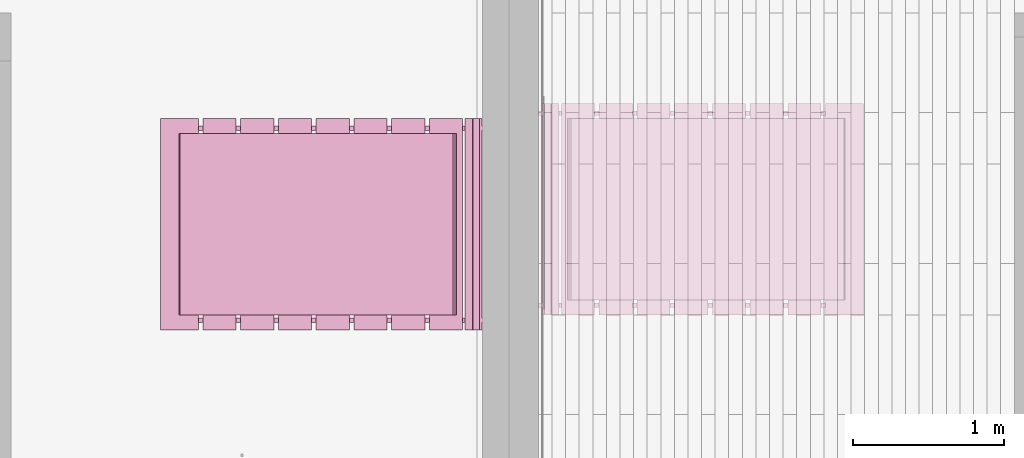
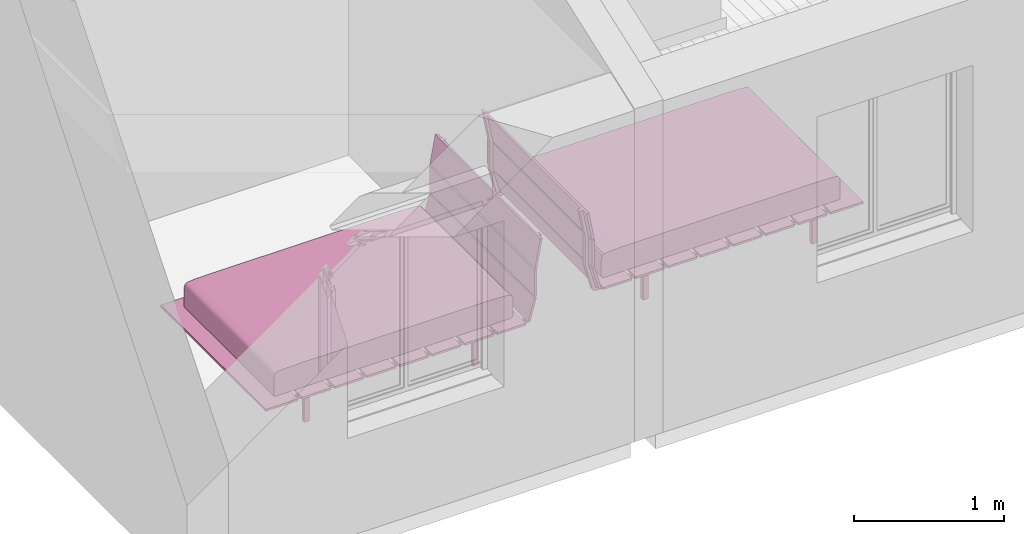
# One storey, part 55 of 61: 2 furnishings.
"""IFC2X3 building model written with IfcOpenShell, lengths in metres."""

from ifc_helpers import new_model, entity, si_unit, converted_unit, derived_unit, direction, frame, frame_2d, origin, origin_2d_with_axis, place, context, subcontext, project, spatial, polyline, circle_curve, parameter, trimmed, segment, composite_curve, rectangle, outline, extrude, source, transform, mapped, material, material_list, type_object, type_shapes, element, save


model = new_model("IFC2X3")

# Units and contexts
model_context = context("Model", 3, precision=1e-05, world=origin(), true_north=direction((6.12303176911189e-17, 1.0)))
body_context = subcontext(model_context, "Body", "Model", "MODEL_VIEW")
ifc_project = project(units=[si_unit("LENGTHUNIT", "METRE"), si_unit("AREAUNIT", "SQUARE_METRE"), si_unit("VOLUMEUNIT", "CUBIC_METRE"), converted_unit("PLANEANGLEUNIT", "DEGREE", entity("IfcRatioMeasure", 0.0174532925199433), si_unit("PLANEANGLEUNIT", "RADIAN"), dimensions=[0, 0, 0, 0, 0, 0, 0]), si_unit("MASSUNIT", "GRAM", prefix="KILO"), derived_unit("MASSDENSITYUNIT", [(si_unit("MASSUNIT", "GRAM", prefix="KILO"), 1), (si_unit("LENGTHUNIT", "METRE"), -3)]), si_unit("TIMEUNIT", "SECOND"), si_unit("FREQUENCYUNIT", "HERTZ"), si_unit("THERMODYNAMICTEMPERATUREUNIT", "DEGREE_CELSIUS"), derived_unit("THERMALTRANSMITTANCEUNIT", [(si_unit("MASSUNIT", "GRAM", prefix="KILO"), 1), (si_unit("THERMODYNAMICTEMPERATUREUNIT", "KELVIN"), -1), (si_unit("TIMEUNIT", "SECOND"), -3)]), derived_unit("VOLUMETRICFLOWRATEUNIT", [(si_unit("LENGTHUNIT", "METRE"), 3), (si_unit("TIMEUNIT", "SECOND"), -1)]), si_unit("ELECTRICCURRENTUNIT", "AMPERE"), si_unit("ELECTRICVOLTAGEUNIT", "VOLT"), si_unit("POWERUNIT", "WATT"), si_unit("FORCEUNIT", "NEWTON", prefix="KILO"), si_unit("ILLUMINANCEUNIT", "LUX"), si_unit("LUMINOUSFLUXUNIT", "LUMEN"), si_unit("LUMINOUSINTENSITYUNIT", "CANDELA"), derived_unit("USERDEFINED", [(si_unit("MASSUNIT", "GRAM", prefix="KILO"), -1), (si_unit("LENGTHUNIT", "METRE"), -2), (si_unit("TIMEUNIT", "SECOND"), 3), (si_unit("LUMINOUSFLUXUNIT", "LUMEN"), 1)]), derived_unit("LINEARVELOCITYUNIT", [(si_unit("LENGTHUNIT", "METRE"), 1), (si_unit("TIMEUNIT", "SECOND"), -1)]), si_unit("PRESSUREUNIT", "PASCAL"), derived_unit("USERDEFINED", [(si_unit("LENGTHUNIT", "METRE"), -2), (si_unit("MASSUNIT", "GRAM", prefix="KILO"), 1), (si_unit("TIMEUNIT", "SECOND"), -2)])], contexts=[model_context])

# Site, building, storey, space
site_placement = place(None, origin())
site = spatial("IfcSite", under=ifc_project, at=site_placement, Name="Surface", CompositionType="ELEMENT")
building_placement = place(site_placement, origin())
building = spatial("IfcBuilding", under=site, at=building_placement, CompositionType="ELEMENT")
storey_placement = place(building_placement, frame((0.0, 0.0, 2.82)))
storey = spatial("IfcBuildingStorey", under=building, at=storey_placement, Name="ETAGE", CompositionType="ELEMENT", Elevation=2.82)
space_placement = place(storey_placement, origin())
space = spatial("IfcSpace", under=storey, at=space_placement, Name="477", CompositionType="ELEMENT", InteriorOrExteriorSpace="INTERNAL")

# Furnishings
ifc_material_1 = material(Name="Textile - Bleu pâle")
ifc_material_2 = material(Name="Bois - Teck")
ifc_material_3 = material(Name="Plastique - Noir")
ifc_material_list_1 = material_list([ifc_material_1, ifc_material_2, ifc_material_3])
ifc_material_list_2 = material_list([ifc_material_1, ifc_material_2, ifc_material_3])
furniture_type_1 = type_object("IfcFurnitureType", Name="1900 mm x 2000 mm", material=ifc_material_list_2)
shared_shape_1 = source(origin(), body_context, "Body", "SweptSolid", [
    extrude(outline(composite_curve([segment(polyline([(-0.755361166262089, -0.0846796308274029), (0.695178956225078, -0.0846796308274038)]), True, "CONTINUOUS"), segment(polyline([(0.695178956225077, -0.0846796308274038), (0.816394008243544, -0.078623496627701)]), True, "CONTINUOUS"), segment(polyline([(0.816394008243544, -0.078623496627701), (0.842657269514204, -0.0725673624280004)]), True, "CONTINUOUS"), segment(polyline([(0.842657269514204, -0.0725673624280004), (0.856799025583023, -0.0624738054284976)]), True, "CONTINUOUS"), segment(polyline([(0.856799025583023, -0.0624738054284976), (0.862859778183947, -0.0443054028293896)]), True, "CONTINUOUS"), segment(polyline([(0.862859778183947, -0.0443054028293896), (0.866900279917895, -0.0120060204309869)]), True, "CONTINUOUS"), segment(polyline([(0.866900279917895, -0.0120060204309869), (0.866900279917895, 0.0747985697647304)]), True, "CONTINUOUS"), segment(polyline([(0.866900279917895, 0.0747985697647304), (0.862859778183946, 0.105079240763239)]), True, "CONTINUOUS"), segment(polyline([(0.862859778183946, 0.105079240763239), (0.856799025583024, 0.113154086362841)]), True, "CONTINUOUS"), segment(polyline([(0.856799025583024, 0.113154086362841), (0.836596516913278, 0.117191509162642)]), True, "CONTINUOUS"), segment(polyline([(0.836596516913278, 0.117191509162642), (-0.953345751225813, 0.117191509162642)]), True, "CONTINUOUS"), segment(polyline([(-0.953345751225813, 0.117191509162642), (-0.969507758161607, 0.115172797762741)]), True, "CONTINUOUS"), segment(polyline([(-0.969507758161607, 0.115172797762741), (-0.971528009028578, 0.103060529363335)]), True, "CONTINUOUS"), segment(polyline([(-0.971528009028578, 0.103060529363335), (-0.971528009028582, -0.0160434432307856)]), True, "CONTINUOUS"), segment(trimmed(circle_curve(frame_2d((-0.76779044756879, -0.0160434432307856), x_axis=(-1.0, 0.0)), 0.203737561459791), [parameter(360.0)], [parameter(11.4298384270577)], True, "PARAMETER"), True, "CONTINUOUS"), segment(trimmed(circle_curve(frame_2d((-0.944467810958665, -0.0517636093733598), x_axis=(-1.0, 0.0)), 0.0234854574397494), [parameter(11.4298384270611)], [parameter(62.3518913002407)], True, "PARAMETER"), True, "CONTINUOUS"), segment(trimmed(circle_curve(frame_2d((-0.929629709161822, -0.0234388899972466), x_axis=(-1.0, 0.0)), 0.0554613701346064), [parameter(62.35189130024)], [parameter(84.2736549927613)], True, "PARAMETER"), True, "CONTINUOUS"), segment(trimmed(circle_curve(frame_2d((-0.809859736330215, 1.1709442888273), x_axis=(-1.0, 0.0)), 1.25583465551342), [parameter(84.2736549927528)], [parameter(86.5854437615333)], True, "PARAMETER"), True, "CONTINUOUS"), segment(polyline([(-0.884657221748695, -0.0826609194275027), (-0.755361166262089, -0.0846796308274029)]), True, "CONTINUOUS")], self_intersect=False)), frame((-0.6, 1.05656455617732, 0.367191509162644), z_axis=(1.0, 0.0, 0.0), x_axis=(0.0, -1.0, 0.0)), (0.0, 0.0, 1.0), 1.2),
    extrude(rectangle(XDim=1.4, YDim=0.249999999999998, at=origin_2d_with_axis()), frame((0.0, 2.02499620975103, 0.232311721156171), z_axis=(0.0, 0.0, 1.0), x_axis=(-1.0, 0.0, 0.0)), (0.0, 0.0, 1.0), 0.0176882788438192),
    extrude(outline(polyline([(-0.114793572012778, -0.00886960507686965), (0.115119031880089, -0.00886960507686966), (0.115119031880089, 0.00896042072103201), (-0.115444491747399, 0.00877878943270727), (-0.114793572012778, -0.00886960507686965)])), frame((-0.7, 0.051324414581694, 0.783374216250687), z_axis=(1.0, 0.0, 0.0), x_axis=(0.0, -0.182165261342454, 0.983267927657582)), (0.0, 0.0, 1.0), 1.4),
    extrude(rectangle(XDim=1.4, YDim=0.219999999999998, at=frame_2d((0.0, 1.38777878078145e-16), x_axis=(1.0, 0.0))), frame((0.0, 1.75999620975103, 0.232311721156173), z_axis=(0.0, 0.0, 1.0), x_axis=(-1.0, 0.0, 0.0)), (0.0, 0.0, 1.0), 0.0176882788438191),
    extrude(rectangle(XDim=1.4, YDim=0.219999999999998, at=frame_2d((0.0, -1.31838984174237e-16), x_axis=(1.0, 0.0))), frame((0.0, 1.50999620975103, 0.232311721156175), z_axis=(0.0, 0.0, 1.0), x_axis=(-1.0, 0.0, 0.0)), (0.0, 0.0, 1.0), 0.017688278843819),
    extrude(rectangle(XDim=1.4, YDim=0.219999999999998, at=frame_2d((0.0, -1.38777878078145e-16), x_axis=(1.0, 0.0))), frame((0.0, 1.25999620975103, 0.232311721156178), z_axis=(0.0, 0.0, 1.0), x_axis=(-1.0, 0.0, 0.0)), (0.0, 0.0, 1.0), 0.0176882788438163),
    extrude(rectangle(XDim=1.4, YDim=0.219999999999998, at=frame_2d((0.0, 6.93889390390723e-17), x_axis=(1.0, 0.0))), frame((0.0, 1.00999620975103, 0.232311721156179), z_axis=(0.0, 0.0, 1.0), x_axis=(-1.0, 0.0, 0.0)), (0.0, 0.0, 1.0), 0.0176882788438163),
    extrude(rectangle(XDim=1.4, YDim=0.22, at=origin_2d_with_axis()), frame((0.0, 0.759996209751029, 0.232311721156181), z_axis=(0.0, 0.0, 1.0), x_axis=(-1.0, 0.0, 0.0)), (0.0, 0.0, 1.0), 0.0176882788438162),
    extrude(rectangle(XDim=1.4, YDim=0.22, at=origin_2d_with_axis()), frame((0.0, 0.509996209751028, 0.232311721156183), z_axis=(0.0, 0.0, 1.0), x_axis=(-1.0, 0.0, 0.0)), (0.0, 0.0, 1.0), 0.0176882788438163),
    extrude(rectangle(XDim=1.4, YDim=0.22, at=origin_2d_with_axis()), frame((0.0, 0.259996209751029, 0.232311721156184), z_axis=(0.0, 0.0, 1.0), x_axis=(-1.0, 0.0, 0.0)), (0.0, 0.0, 1.0), 0.0176882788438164),
    extrude(rectangle(XDim=1.4, YDim=0.0183684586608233, at=origin_2d_with_axis()), frame((0.0, 0.0735868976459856, 0.443802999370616), z_axis=(0.0, 0.0, 1.0), x_axis=(-1.0, 0.0, 0.0)), (0.0, 0.0, 1.0), 0.214481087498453),
    extrude(outline(polyline([(-0.0941857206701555, -0.00889996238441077), (0.0936128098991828, -0.00889996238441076), (0.0943260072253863, 0.00869876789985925), (-0.0937530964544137, 0.00910115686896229), (-0.0941857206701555, -0.00889996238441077)])), frame((-0.7, 0.100341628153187, 0.340588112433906), z_axis=(1.0, 0.0, 0.0), x_axis=(0.0, -0.268983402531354, 0.96314481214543)), (0.0, 0.0, 1.0), 1.4),
    extrude(rectangle(XDim=0.0299999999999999, YDim=0.0421792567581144, at=frame_2d((0.0, -2.70616862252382e-16), x_axis=(1.0, 0.0))), frame((-0.634999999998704, 1.80439834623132, 0.0)), (0.0, 0.0, 1.0), 0.204645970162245),
    extrude(rectangle(XDim=0.0299999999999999, YDim=0.0421792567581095, at=frame_2d((0.0, -3.29597460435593e-17), x_axis=(1.0, 0.0))), frame((-0.634999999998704, 0.505017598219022, 0.0)), (0.0, 0.0, 1.0), 0.204645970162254),
    extrude(rectangle(XDim=0.0299999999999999, YDim=0.0421792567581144, at=origin_2d_with_axis()), frame((0.635000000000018, 1.80439834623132, 0.0), z_axis=(0.0, 0.0, 1.0), x_axis=(-1.0, 0.0, 0.0)), (0.0, 0.0, 1.0), 0.204645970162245),
    extrude(rectangle(XDim=0.0299999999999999, YDim=0.0421792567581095, at=frame_2d((0.0, -3.29597460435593e-17), x_axis=(1.0, 0.0))), frame((0.635000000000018, 0.505017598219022, 0.0), z_axis=(0.0, 0.0, 1.0), x_axis=(-1.0, 0.0, 0.0)), (0.0, 0.0, 1.0), 0.204645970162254),
    extrude(outline(composite_curve([segment(polyline([(-0.499010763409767, 0.346366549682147), (-0.499569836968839, 0.324560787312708)]), True, "CONTINUOUS"), segment(polyline([(-0.499569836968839, 0.324560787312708), (-0.2642053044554, 0.324063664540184)]), True, "CONTINUOUS"), segment(polyline([(-0.2642053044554, 0.324063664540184), (-0.0414406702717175, 0.365029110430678)]), True, "CONTINUOUS"), segment(polyline([(-0.0414406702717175, 0.365029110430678), (0.170125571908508, 0.346291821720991)]), True, "CONTINUOUS"), segment(polyline([(0.170125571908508, 0.346291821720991), (0.528537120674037, -1.59768807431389)]), True, "CONTINUOUS"), segment(polyline([(0.528537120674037, -1.59768807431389), (0.549932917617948, -1.56608457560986)]), True, "CONTINUOUS"), segment(polyline([(0.549932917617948, -1.56608457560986), (0.19740578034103, 0.350911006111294)]), True, "CONTINUOUS"), segment(trimmed(circle_curve(frame_2d((0.17103903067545, 0.346062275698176), x_axis=(0.180862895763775, -0.983508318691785)), 0.0268088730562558), [parameter(90.0)], [parameter(167.367566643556)], True, "PARAMETER"), True, "CONTINUOUS"), segment(polyline([(0.172073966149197, 0.372851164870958), (-0.0455420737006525, 0.387331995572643)]), True, "CONTINUOUS"), segment(polyline([(-0.0455420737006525, 0.387331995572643), (-0.268306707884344, 0.346366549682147)]), True, "CONTINUOUS"), segment(polyline([(-0.268306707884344, 0.346366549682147), (-0.499010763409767, 0.346366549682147)]), True, "CONTINUOUS")], self_intersect=False)), frame((-0.649999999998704, 0.430906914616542, 0.462262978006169), z_axis=(-1.0, 0.0, 0.0), x_axis=(0.0, 0.180862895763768, -0.983508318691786)), (0.0, 0.0, -1.0), 0.0299999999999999),
    extrude(outline(composite_curve([segment(polyline([(-0.499010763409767, 0.346366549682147), (-0.49956983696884, 0.324560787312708)]), True, "CONTINUOUS"), segment(polyline([(-0.49956983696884, 0.324560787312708), (-0.2642053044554, 0.324063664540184)]), True, "CONTINUOUS"), segment(polyline([(-0.2642053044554, 0.324063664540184), (-0.0414406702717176, 0.365029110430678)]), True, "CONTINUOUS"), segment(polyline([(-0.0414406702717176, 0.365029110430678), (0.170125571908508, 0.346291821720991)]), True, "CONTINUOUS"), segment(polyline([(0.170125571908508, 0.346291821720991), (0.528537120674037, -1.59768807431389)]), True, "CONTINUOUS"), segment(polyline([(0.528537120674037, -1.59768807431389), (0.549932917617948, -1.56608457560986)]), True, "CONTINUOUS"), segment(polyline([(0.549932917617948, -1.56608457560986), (0.19740578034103, 0.350911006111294)]), True, "CONTINUOUS"), segment(trimmed(circle_curve(frame_2d((0.17103903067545, 0.346062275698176), x_axis=(0.180862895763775, -0.983508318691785)), 0.0268088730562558), [parameter(90.0)], [parameter(167.367566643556)], True, "PARAMETER"), True, "CONTINUOUS"), segment(polyline([(0.172073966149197, 0.372851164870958), (-0.0455420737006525, 0.387331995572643)]), True, "CONTINUOUS"), segment(polyline([(-0.0455420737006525, 0.387331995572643), (-0.268306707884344, 0.346366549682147)]), True, "CONTINUOUS"), segment(polyline([(-0.268306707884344, 0.346366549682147), (-0.499010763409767, 0.346366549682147)]), True, "CONTINUOUS")], self_intersect=False)), frame((0.620000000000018, 0.430906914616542, 0.462262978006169), z_axis=(-1.0, 0.0, 0.0), x_axis=(0.0, 0.180862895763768, -0.983508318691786)), (0.0, 0.0, -1.0), 0.0299999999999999),
])
type_shapes(furniture_type_1, [shared_shape_1])
furnishing_1_placement = place(space_placement, frame((83.9025525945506, 82.9475239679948, 0.0199999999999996), z_axis=(0.0, 0.0, 1.0), x_axis=(0.0, -1.0, 0.0)))
element("IfcFurnishingElement", 1, at=furnishing_1_placement, inside=space, type_object=furniture_type_1, material=ifc_material_list_1, Name="Lit à lattes:1900 mm x 2000 mm", ObjectType="Lit à lattes:1900 mm x 2000 mm", context=body_context, shape_type="MappedRepresentation", body=[
    mapped(shared_shape_1, transform((0.0, 0.0, 0.0), scale=1.0)),
])
ifc_material_list_3 = material_list([ifc_material_1, ifc_material_2, ifc_material_3])
ifc_material_list_4 = material_list([ifc_material_1, ifc_material_2, ifc_material_3])
furniture_type_2 = type_object("IfcFurnitureType", Name="1900 mm x 2000 mm", material=ifc_material_list_4)
shared_shape_2 = source(origin(), body_context, "Body", "SweptSolid", [
    extrude(outline(composite_curve([segment(polyline([(0.753947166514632, -0.0964613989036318), (0.883258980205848, -0.0964613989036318)]), True, "CONTINUOUS"), segment(trimmed(circle_curve(frame_2d((0.82804087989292, 1.1581587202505), x_axis=(0.999878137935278, -0.0156111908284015)), 1.25583465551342), [parameter(273.414556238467)], [parameter(275.726345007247)], True, "PARAMETER"), True, "CONTINUOUS"), segment(trimmed(circle_curve(frame_2d((0.929150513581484, -0.0379486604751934), x_axis=(0.999878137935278, -0.0156111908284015)), 0.0554613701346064), [parameter(275.726345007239)], [parameter(297.64810869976)], True, "PARAMETER"), True, "CONTINUOUS"), segment(trimmed(circle_curve(frame_2d((0.943544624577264, -0.0665015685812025), x_axis=(0.999878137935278, -0.0156111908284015)), 0.0234854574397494), [parameter(297.648108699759)], [parameter(348.570161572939)], True, "PARAMETER"), True, "CONTINUOUS"), segment(trimmed(circle_curve(frame_2d((0.767446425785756, -0.0280276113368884), x_axis=(0.999878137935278, -0.0156111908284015)), 0.203737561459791), [parameter(348.570161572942)], [parameter(3.56222124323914e-13)], True, "PARAMETER"), True, "CONTINUOUS"), segment(polyline([(0.971159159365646, -0.0312081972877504), (0.97301851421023, 0.0878812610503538)]), True, "CONTINUOUS"), segment(polyline([(0.97301851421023, 0.0878812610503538), (0.971187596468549, 0.10002359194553)]), True, "CONTINUOUS"), segment(polyline([(0.971187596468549, 0.10002359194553), (0.955059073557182, 0.102294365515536)]), True, "CONTINUOUS"), segment(polyline([(0.955059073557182, 0.102294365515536), (-0.834665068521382, 0.130237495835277)]), True, "CONTINUOUS"), segment(polyline([(-0.834665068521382, 0.130237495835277), (-0.854928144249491, 0.12651595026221)]), True, "CONTINUOUS"), segment(polyline([(-0.854928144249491, 0.12651595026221), (-0.861114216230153, 0.118536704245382)]), True, "CONTINUOUS"), segment(polyline([(-0.861114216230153, 0.118536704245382), (-0.865626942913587, 0.0883228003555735)]), True, "CONTINUOUS"), segment(polyline([(-0.865626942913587, 0.0883228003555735), (-0.866982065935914, 0.00152878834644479)]), True, "CONTINUOUS"), segment(polyline([(-0.866982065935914, 0.00152878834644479), (-0.863446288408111, -0.0308297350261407)]), True, "CONTINUOUS"), segment(polyline([(-0.863446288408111, -0.0308297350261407), (-0.857669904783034, -0.0490905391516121)]), True, "CONTINUOUS"), segment(polyline([(-0.857669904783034, -0.0490905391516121), (-0.843687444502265, -0.0594036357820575)]), True, "CONTINUOUS"), segment(polyline([(-0.843687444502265, -0.0594036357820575), (-0.817521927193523, -0.0658690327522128)]), True, "CONTINUOUS"), segment(polyline([(-0.817521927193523, -0.0658690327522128), (-0.696416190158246, -0.0738167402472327)]), True, "CONTINUOUS"), segment(polyline([(-0.696416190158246, -0.0738167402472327), (0.753947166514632, -0.0964613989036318)]), True, "CONTINUOUS")], self_intersect=False)), frame((-0.6, -1.05656455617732, 0.367191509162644), z_axis=(1.0, 0.0, 0.0), x_axis=(0.0, -0.999878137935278, -0.0156111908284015)), (0.0, 0.0, 1.0), 1.2),
    extrude(rectangle(XDim=0.249999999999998, YDim=1.4, at=origin_2d_with_axis()), frame((0.0, -2.02499620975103, 0.232311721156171), z_axis=(0.0, 0.0, 1.0), x_axis=(0.0, 1.0, 0.0)), (0.0, 0.0, 1.0), 0.0176882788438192),
    extrude(outline(polyline([(-0.00463256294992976, -0.115042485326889), (0.0130278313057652, -0.115042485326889), (0.00471132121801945, 0.115371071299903), (-0.0131065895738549, 0.114713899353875), (-0.00463256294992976, -0.115042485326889)])), frame((-0.7, -0.051324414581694, 0.783374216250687), z_axis=(1.0, 0.0, 0.0), x_axis=(0.0, 0.975885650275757, -0.218282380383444)), (0.0, 0.0, 1.0), 1.4),
    extrude(rectangle(XDim=0.219999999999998, YDim=1.4, at=frame_2d((-1.38777878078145e-16, 0.0), x_axis=(1.0, 0.0))), frame((0.0, -1.75999620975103, 0.232311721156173), z_axis=(0.0, 0.0, 1.0), x_axis=(0.0, 1.0, 0.0)), (0.0, 0.0, 1.0), 0.0176882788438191),
    extrude(rectangle(XDim=0.219999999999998, YDim=1.4, at=frame_2d((-1.31838984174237e-16, 0.0), x_axis=(1.0, 0.0))), frame((0.0, -1.50999620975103, 0.232311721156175), z_axis=(0.0, 0.0, 1.0), x_axis=(0.0, 1.0, 0.0)), (0.0, 0.0, 1.0), 0.017688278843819),
    extrude(rectangle(XDim=0.219999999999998, YDim=1.4, at=frame_2d((-1.38777878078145e-16, 0.0), x_axis=(1.0, 0.0))), frame((0.0, -1.25999620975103, 0.232311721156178), z_axis=(0.0, 0.0, 1.0), x_axis=(0.0, 1.0, 0.0)), (0.0, 0.0, 1.0), 0.0176882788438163),
    extrude(rectangle(XDim=0.219999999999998, YDim=1.4, at=frame_2d((6.93889390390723e-17, 0.0), x_axis=(1.0, 0.0))), frame((0.0, -1.00999620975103, 0.232311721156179), z_axis=(0.0, 0.0, 1.0), x_axis=(0.0, 1.0, 0.0)), (0.0, 0.0, 1.0), 0.0176882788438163),
    extrude(rectangle(XDim=0.22, YDim=1.4, at=origin_2d_with_axis()), frame((0.0, -0.759996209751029, 0.232311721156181), z_axis=(0.0, 0.0, 1.0), x_axis=(0.0, 1.0, 0.0)), (0.0, 0.0, 1.0), 0.0176882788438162),
    extrude(rectangle(XDim=0.22, YDim=1.4, at=origin_2d_with_axis()), frame((0.0, -0.509996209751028, 0.232311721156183), z_axis=(0.0, 0.0, 1.0), x_axis=(0.0, 1.0, 0.0)), (0.0, 0.0, 1.0), 0.0176882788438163),
    extrude(rectangle(XDim=0.22, YDim=1.4, at=origin_2d_with_axis()), frame((0.0, -0.259996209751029, 0.232311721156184), z_axis=(0.0, 0.0, 1.0), x_axis=(0.0, 1.0, 0.0)), (0.0, 0.0, 1.0), 0.0176882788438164),
    extrude(rectangle(XDim=0.0183684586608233, YDim=1.4, at=origin_2d_with_axis()), frame((0.0, -0.0735868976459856, 0.443802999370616), z_axis=(0.0, 0.0, 1.0), x_axis=(0.0, 1.0, 0.0)), (0.0, 0.0, 1.0), 0.214481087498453),
    extrude(outline(polyline([(-0.0111603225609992, -0.093944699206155), (0.00684599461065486, -0.093944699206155), (0.0109625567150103, 0.0940897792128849), (-0.00664822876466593, 0.093799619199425), (-0.0111603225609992, -0.093944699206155)])), frame((-0.7, -0.100341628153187, 0.340588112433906), z_axis=(1.0, 0.0, 0.0), x_axis=(0.0, 0.969329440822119, -0.245764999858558)), (0.0, 0.0, 1.0), 1.4),
    extrude(rectangle(XDim=0.0421792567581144, YDim=0.0299999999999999, at=origin_2d_with_axis()), frame((-0.634999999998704, -1.80439834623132, 0.0), z_axis=(0.0, 0.0, 1.0), x_axis=(0.0, -1.0, 0.0)), (0.0, 0.0, 1.0), 0.204645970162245),
    extrude(rectangle(XDim=0.0421792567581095, YDim=0.0299999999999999, at=frame_2d((3.29597460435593e-17, 0.0), x_axis=(1.0, 0.0))), frame((-0.634999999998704, -0.505017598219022, 0.0), z_axis=(0.0, 0.0, 1.0), x_axis=(0.0, -1.0, 0.0)), (0.0, 0.0, 1.0), 0.204645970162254),
    extrude(rectangle(XDim=0.0421792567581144, YDim=0.0299999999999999, at=frame_2d((2.70616862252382e-16, 0.0), x_axis=(1.0, 0.0))), frame((0.635000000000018, -1.80439834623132, 0.0), z_axis=(0.0, 0.0, 1.0), x_axis=(0.0, 1.0, 0.0)), (0.0, 0.0, 1.0), 0.204645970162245),
    extrude(rectangle(XDim=0.0421792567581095, YDim=0.0299999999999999, at=frame_2d((-3.29597460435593e-17, 0.0), x_axis=(1.0, 0.0))), frame((0.635000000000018, -0.505017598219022, 0.0), z_axis=(0.0, 0.0, 1.0), x_axis=(0.0, 1.0, 0.0)), (0.0, 0.0, 1.0), 0.204645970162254),
    extrude(outline(composite_curve([segment(polyline([(-0.333462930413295, -0.507724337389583), (-0.311650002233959, -0.507724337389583)]), True, "CONTINUOUS"), segment(polyline([(-0.311650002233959, -0.507724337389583), (-0.317185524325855, -0.272424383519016)]), True, "CONTINUOUS"), segment(polyline([(-0.317185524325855, -0.272424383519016), (-0.363847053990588, -0.050782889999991)]), True, "CONTINUOUS"), segment(polyline([(-0.363847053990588, -0.050782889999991), (-0.350538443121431, 0.161194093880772)]), True, "CONTINUOUS"), segment(polyline([(-0.350538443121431, 0.161194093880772), (1.5836166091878, 0.569312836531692)]), True, "CONTINUOUS"), segment(polyline([(1.5836166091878, 0.569312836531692), (1.55147511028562, 0.589891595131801)]), True, "CONTINUOUS"), segment(polyline([(1.55147511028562, 0.589891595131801), (-0.355855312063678, 0.188346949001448)]), True, "CONTINUOUS"), segment(trimmed(circle_curve(frame_2d((-0.350332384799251, 0.162113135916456), x_axis=(0.978549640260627, 0.206011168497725)), 0.0268088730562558), [parameter(90.0)], [parameter(167.367566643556)], True, "PARAMETER"), True, "CONTINUOUS"), segment(polyline([(-0.377138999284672, 0.162461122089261), (-0.386037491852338, -0.0554545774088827)]), True, "CONTINUOUS"), segment(polyline([(-0.386037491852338, -0.0554545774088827), (-0.339375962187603, -0.277096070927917)]), True, "CONTINUOUS"), segment(polyline([(-0.339375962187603, -0.277096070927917), (-0.333462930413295, -0.507724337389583)]), True, "CONTINUOUS")], self_intersect=False)), frame((-0.649999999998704, -0.430906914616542, 0.462262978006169), z_axis=(1.0, 0.0, 0.0), x_axis=(0.0, -0.978549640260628, 0.206011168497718)), (0.0, 0.0, 1.0), 0.0299999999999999),
    extrude(outline(composite_curve([segment(polyline([(-0.333462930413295, -0.507724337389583), (-0.311650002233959, -0.507724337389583)]), True, "CONTINUOUS"), segment(polyline([(-0.311650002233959, -0.507724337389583), (-0.317185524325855, -0.272424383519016)]), True, "CONTINUOUS"), segment(polyline([(-0.317185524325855, -0.272424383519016), (-0.363847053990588, -0.0507828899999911)]), True, "CONTINUOUS"), segment(polyline([(-0.363847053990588, -0.0507828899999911), (-0.350538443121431, 0.161194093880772)]), True, "CONTINUOUS"), segment(polyline([(-0.350538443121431, 0.161194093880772), (1.5836166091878, 0.569312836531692)]), True, "CONTINUOUS"), segment(polyline([(1.5836166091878, 0.569312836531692), (1.55147511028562, 0.5898915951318)]), True, "CONTINUOUS"), segment(polyline([(1.55147511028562, 0.5898915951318), (-0.355855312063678, 0.188346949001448)]), True, "CONTINUOUS"), segment(trimmed(circle_curve(frame_2d((-0.350332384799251, 0.162113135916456), x_axis=(0.978549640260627, 0.206011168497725)), 0.0268088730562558), [parameter(90.0)], [parameter(167.367566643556)], True, "PARAMETER"), True, "CONTINUOUS"), segment(polyline([(-0.377138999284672, 0.162461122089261), (-0.386037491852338, -0.0554545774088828)]), True, "CONTINUOUS"), segment(polyline([(-0.386037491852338, -0.0554545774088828), (-0.339375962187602, -0.277096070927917)]), True, "CONTINUOUS"), segment(polyline([(-0.339375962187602, -0.277096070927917), (-0.333462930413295, -0.507724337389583)]), True, "CONTINUOUS")], self_intersect=False)), frame((0.620000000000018, -0.430906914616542, 0.462262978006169), z_axis=(1.0, 0.0, 0.0), x_axis=(0.0, -0.978549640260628, 0.206011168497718)), (0.0, 0.0, 1.0), 0.0299999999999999),
])
type_shapes(furniture_type_2, [shared_shape_2])
furnishing_2_placement = place(storey_placement, frame((83.5502521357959, 82.8475239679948, 0.0199999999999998), z_axis=(0.0, 0.0, 1.0), x_axis=(0.0, -1.0, 0.0)))
element("IfcFurnishingElement", 2, at=furnishing_2_placement, inside=storey, type_object=furniture_type_2, material=ifc_material_list_3, Name="Lit à lattes:1900 mm x 2000 mm", ObjectType="Lit à lattes:1900 mm x 2000 mm", context=body_context, shape_type="MappedRepresentation", body=[
    mapped(shared_shape_2, transform((0.0, 0.0, 0.0), scale=1.0)),
])

save(model, "model.ifc")
